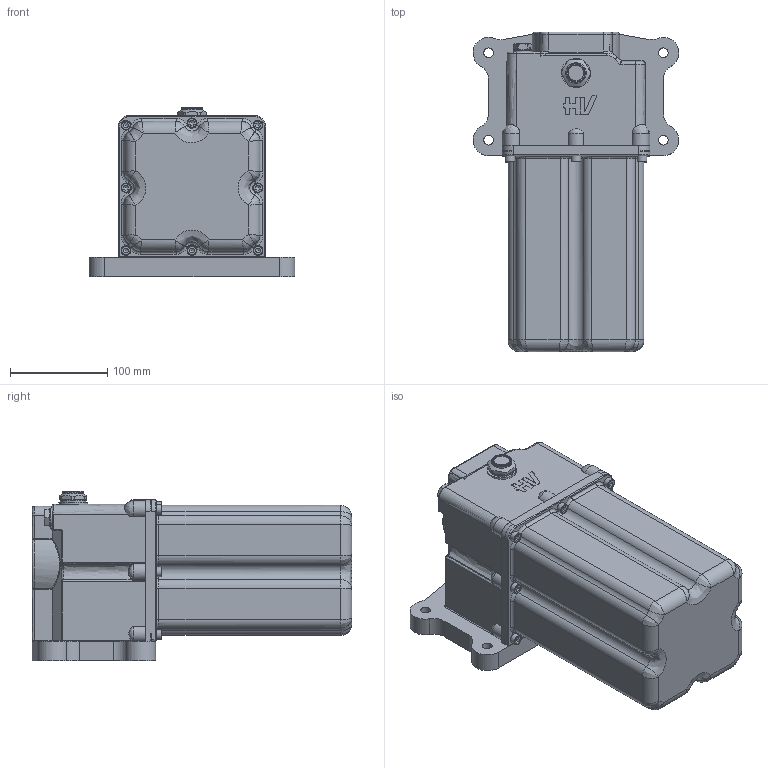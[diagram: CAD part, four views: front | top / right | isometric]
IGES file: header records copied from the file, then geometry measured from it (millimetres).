
Global section: file name: No Iges File Name specified; native system: Autodesk Inventor 2013; preprocessor: AutoDesk Inventor Iges Exporter R2013; author: christian.scardovi; date: 20240917.074827; units: millimetre
Bounding box: 211.98 x 329 x 174.5 mm (x, y, z)
Volume: 1159604.7 mm3; surface area: 518263.9 mm2
Topology: 1 solids, 2 shells, 1970 faces, 4684 edges, 2670 vertices
Faces by surface type: bspline 1970
